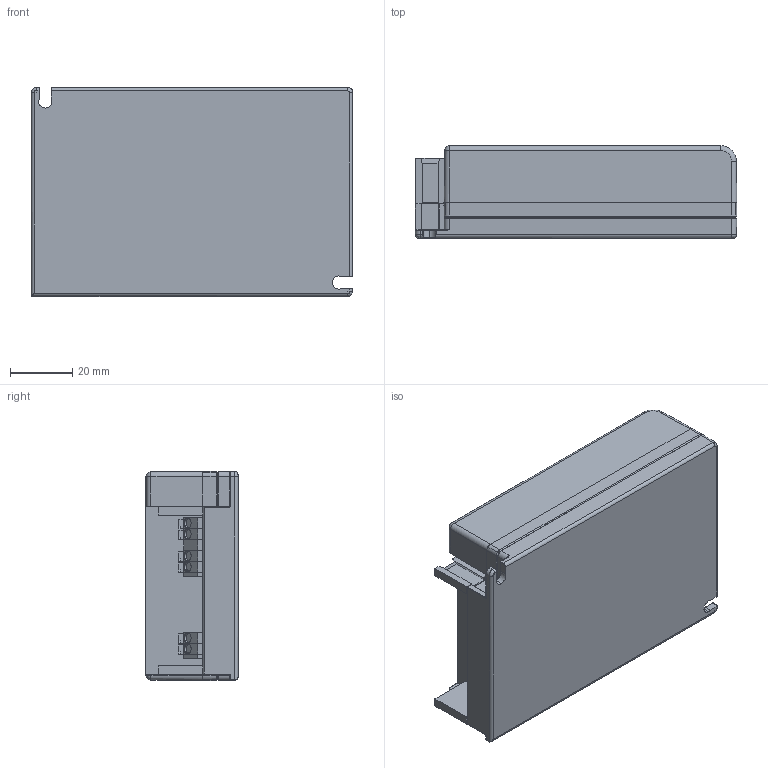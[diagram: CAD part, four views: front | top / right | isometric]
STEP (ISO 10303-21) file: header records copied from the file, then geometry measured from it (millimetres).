
FILE_DESCRIPTION (( 'STEP AP214' ), '1' );
FILE_NAME ('4186360swm000.step', '2020-01-27T11:30:48', ( 'OSRAM' ), ( 'OSRAM' ), 'SwSTEP 2.0', 'SolidWorks 2017', '' );
FILE_SCHEMA (( 'AUTOMOTIVE_DESIGN' ));
Length unit declared in the file: millimetre
Products named in the file (1): 4186360swm000
Bounding box: 103 x 29.5 x 67 mm (x, y, z)
Volume: 183960.8 mm3; surface area: 26239.8 mm2
Topology: 1 solids, 1 shells, 612 faces, 1560 edges, 925 vertices
Faces by surface type: plane 387, cylinder 114, bspline 67, cone 21, sphere 15, torus 8
Entity records: 25201 total; most frequent: CARTESIAN_POINT 4832, ORIENTED_EDGE 3088, DIRECTION 2576, EDGE_CURVE 1544, LINE 1118, VECTOR 1118, VERTEX_POINT 925, AXIS2_PLACEMENT_3D 729
